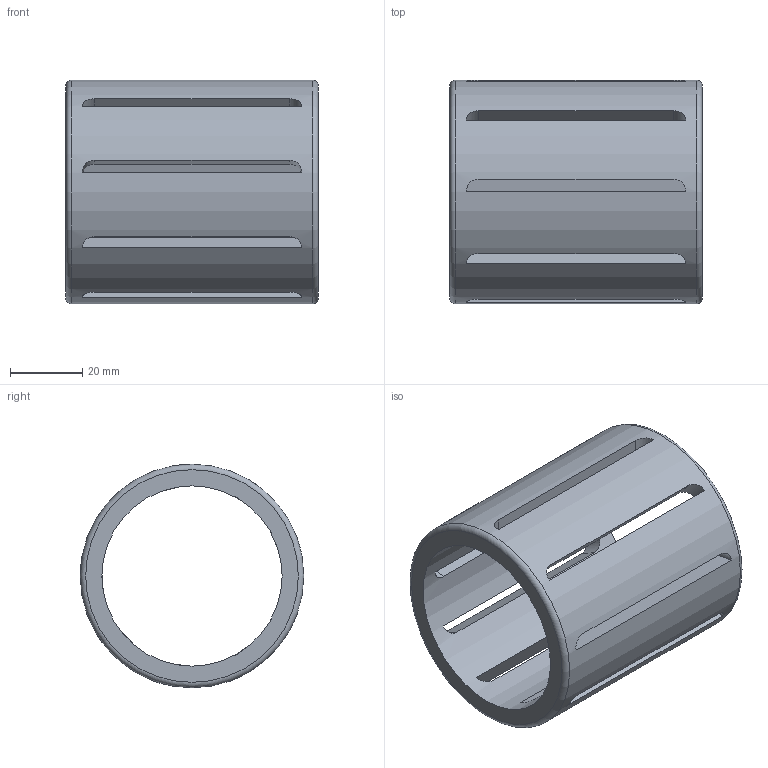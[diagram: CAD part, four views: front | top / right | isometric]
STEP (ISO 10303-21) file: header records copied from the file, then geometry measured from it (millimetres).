
FILE_DESCRIPTION(/* description */ ('Unknown'),/* implementation_level */ '2;1');
FILE_NAME(/* name */ 'KH5070',/* time_stamp */ '2025-02-04T09:54:25+08:00',/* author */ ('Unknown'),/* organization */ ('Unknown'),/* preprocessor_version */ 'ST-DEVELOPER v18.102',/* originating_system */ 'Solid Edge',/* authorisation */ 'Unknown');
FILE_SCHEMA (('AUTOMOTIVE_DESIGN {1 0 10303 214 3 1 1}'));
Length unit declared in the file: millimetre
Products named in the file (1): KH5070
Bounding box: 70 x 62 x 62 mm (x, y, z)
Volume: 62430.2 mm3; surface area: 29559.9 mm2
Topology: 1 solids, 1 shells, 42 faces, 118 edges, 78 vertices
Faces by surface type: cylinder 20, plane 20, torus 2
Full cylindrical faces by diameter (mm): 50 x1, 62 x1
Entity records: 1454 total; most frequent: CARTESIAN_POINT 379, ORIENTED_EDGE 228, DIRECTION 170, EDGE_CURVE 114, VERTEX_POINT 78, LINE 72, VECTOR 72, EDGE_LOOP 66
